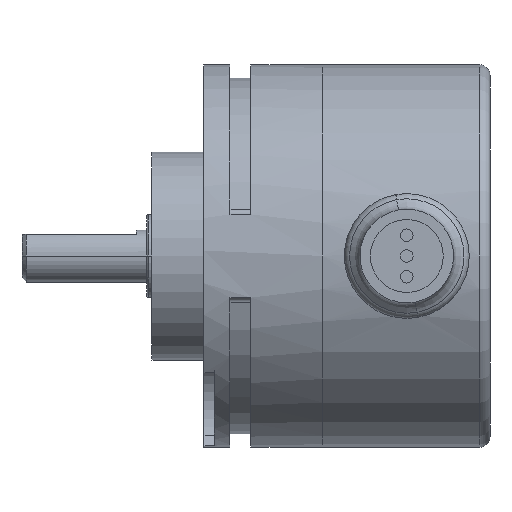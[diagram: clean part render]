
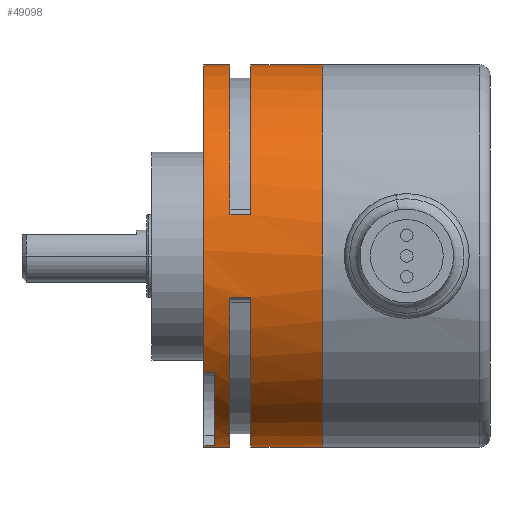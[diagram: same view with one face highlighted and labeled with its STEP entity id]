
A CAD part, front view. The second image highlights one B-rep face of the part: STEP entity #49098.
In plain terms, the highlighted cylindrical face has radius 18.4 mm (diameter 36.8 mm), a partial arc.
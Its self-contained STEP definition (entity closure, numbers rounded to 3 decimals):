
#8160 = CARTESIAN_POINT ( 'NONE',  ( -46.111, 2.669, -18.237 ) ) ;
#8545 = DIRECTION ( 'NONE',  ( 0., 0., 1. ) ) ;
#8546 = DIRECTION ( 'NONE',  ( -1., 0., 0. ) ) ;
#8547 = AXIS2_PLACEMENT_3D ( 'NONE', #8554, #8546, #8545 ) ;
#8548 = CIRCLE ( 'NONE', #8547, 18.4 ) ;
#8554 = CARTESIAN_POINT ( 'NONE',  ( -46.111, 5.115, 0. ) ) ;
#8628 = CARTESIAN_POINT ( 'NONE',  ( -44.611, -12.845, 4. ) ) ;
#8629 = DIRECTION ( 'NONE',  ( -1., 0., 0. ) ) ;
#8630 = VECTOR ( 'NONE', #8629, 1000. ) ;
#8631 = CARTESIAN_POINT ( 'NONE',  ( -42.611, -12.845, 4. ) ) ;
#8632 = LINE ( 'NONE', #8631, #8630 ) ;
#8633 = CARTESIAN_POINT ( 'NONE',  ( -42.611, -12.845, 4. ) ) ;
#8634 = DIRECTION ( 'NONE',  ( 0., 0., -1. ) ) ;
#8635 = DIRECTION ( 'NONE',  ( 1., 0., 0. ) ) ;
#8636 = CARTESIAN_POINT ( 'NONE',  ( -42.611, 5.115, 0. ) ) ;
#8637 = AXIS2_PLACEMENT_3D ( 'NONE', #8636, #8635, #8634 ) ;
#8638 = CIRCLE ( 'NONE', #8637, 18.4 ) ;
#8640 = CARTESIAN_POINT ( 'NONE',  ( -47.111, 2.669, -18.237 ) ) ;
#8641 = DIRECTION ( 'NONE',  ( 0., 0., 1. ) ) ;
#8642 = DIRECTION ( 'NONE',  ( -1., 0., 0. ) ) ;
#8643 = AXIS2_PLACEMENT_3D ( 'NONE', #8665, #8642, #8641 ) ;
#8665 = CARTESIAN_POINT ( 'NONE',  ( -47.111, 5.115, 0. ) ) ;
#8666 = CIRCLE ( 'NONE', #8643, 18.4 ) ;
#8667 = CARTESIAN_POINT ( 'NONE',  ( -47.111, -9.456, -11.237 ) ) ;
#8668 = DIRECTION ( 'NONE',  ( 0., 0., 1. ) ) ;
#8669 = DIRECTION ( 'NONE',  ( -1., 0., 0. ) ) ;
#8670 = CARTESIAN_POINT ( 'NONE',  ( -47.111, 5.115, 0. ) ) ;
#8671 = AXIS2_PLACEMENT_3D ( 'NONE', #8670, #8669, #8668 ) ;
#8672 = CIRCLE ( 'NONE', #8671, 18.4 ) ;
#8673 = CARTESIAN_POINT ( 'NONE',  ( -46.111, -9.456, -11.237 ) ) ;
#8674 = DIRECTION ( 'NONE',  ( -1., 0., 0. ) ) ;
#8675 = VECTOR ( 'NONE', #8674, 1000. ) ;
#8676 = CARTESIAN_POINT ( 'NONE',  ( -46.111, -9.456, -11.237 ) ) ;
#8677 = LINE ( 'NONE', #8676, #8675 ) ;
#8696 = DIRECTION ( 'NONE',  ( 0., 0., -1. ) ) ;
#8697 = DIRECTION ( 'NONE',  ( 1., 0., 0. ) ) ;
#8698 = CARTESIAN_POINT ( 'NONE',  ( -44.611, 5.115, 0. ) ) ;
#8699 = AXIS2_PLACEMENT_3D ( 'NONE', #8698, #8697, #8696 ) ;
#8700 = CIRCLE ( 'NONE', #8699, 18.4 ) ;
#8780 = DIRECTION ( 'NONE',  ( 0., 0., -1. ) ) ;
#8781 = DIRECTION ( 'NONE',  ( 1., 0., 0. ) ) ;
#8782 = CARTESIAN_POINT ( 'NONE',  ( -42.611, 5.115, 0. ) ) ;
#8783 = AXIS2_PLACEMENT_3D ( 'NONE', #8782, #8781, #8780 ) ;
#8784 = CIRCLE ( 'NONE', #8783, 18.4 ) ;
#8786 = CARTESIAN_POINT ( 'NONE',  ( -42.611, -12.845, -4. ) ) ;
#8787 = DIRECTION ( 'NONE',  ( -1., 0., 0. ) ) ;
#8788 = VECTOR ( 'NONE', #8787, 1000. ) ;
#8789 = CARTESIAN_POINT ( 'NONE',  ( -42.611, -12.845, -4. ) ) ;
#8790 = LINE ( 'NONE', #8789, #8788 ) ;
#8791 = CARTESIAN_POINT ( 'NONE',  ( -44.611, -12.845, -4. ) ) ;
#8792 = DIRECTION ( 'NONE',  ( 0., 0., -1. ) ) ;
#8793 = DIRECTION ( 'NONE',  ( 1., 0., 0. ) ) ;
#8794 = CARTESIAN_POINT ( 'NONE',  ( -44.611, 5.115, 0. ) ) ;
#8808 = CARTESIAN_POINT ( 'NONE',  ( -52.111, 5.115, 0. ) ) ;
#8809 = CYLINDRICAL_SURFACE ( 'NONE', #8830, 18.4 ) ;
#8822 = AXIS2_PLACEMENT_3D ( 'NONE', #8794, #8793, #8792 ) ;
#8823 = CIRCLE ( 'NONE', #8822, 18.4 ) ;
#8824 = DIRECTION ( 'NONE',  ( -1., 0., 0. ) ) ;
#8825 = VECTOR ( 'NONE', #8824, 1000. ) ;
#8826 = CARTESIAN_POINT ( 'NONE',  ( -46.111, 2.669, -18.237 ) ) ;
#8827 = LINE ( 'NONE', #8826, #8825 ) ;
#8828 = DIRECTION ( 'NONE',  ( 0., 0., 1. ) ) ;
#8829 = DIRECTION ( 'NONE',  ( -1., 0., 0. ) ) ;
#8830 = AXIS2_PLACEMENT_3D ( 'NONE', #8808, #8829, #8828 ) ;
#8865 = FACE_OUTER_BOUND ( 'NONE', #49234, .T. ) ;
#8979 = DIRECTION ( 'NONE',  ( 0., 0., 1. ) ) ;
#8980 = DIRECTION ( 'NONE',  ( -1., 0., 0. ) ) ;
#8981 = CARTESIAN_POINT ( 'NONE',  ( -35.711, 5.115, 0. ) ) ;
#8982 = AXIS2_PLACEMENT_3D ( 'NONE', #8981, #8980, #8979 ) ;
#8983 = CIRCLE ( 'NONE', #8982, 18.4 ) ;
#21793 = CARTESIAN_POINT ( 'NONE',  ( -44.611, 5.115, -18.4 ) ) ;
#28850 = CARTESIAN_POINT ( 'NONE',  ( -42.611, 5.115, -18.4 ) ) ;
#28851 = DIRECTION ( 'NONE',  ( -1., 0., 0. ) ) ;
#28852 = VECTOR ( 'NONE', #28851, 1000. ) ;
#28853 = CARTESIAN_POINT ( 'NONE',  ( -52.111, 5.115, -18.4 ) ) ;
#28854 = LINE ( 'NONE', #28853, #28852 ) ;
#28910 = CARTESIAN_POINT ( 'NONE',  ( -35.711, 5.115, -18.4 ) ) ;
#28911 = CARTESIAN_POINT ( 'NONE',  ( -35.711, 5.115, 18.4 ) ) ;
#34355 = CARTESIAN_POINT ( 'NONE',  ( -42.611, 5.115, 18.4 ) ) ;
#34382 = DIRECTION ( 'NONE',  ( -1., 0., 0. ) ) ;
#34383 = VECTOR ( 'NONE', #34382, 1000. ) ;
#34384 = CARTESIAN_POINT ( 'NONE',  ( -52.111, 5.115, -18.4 ) ) ;
#34385 = LINE ( 'NONE', #34384, #34383 ) ;
#34386 = CARTESIAN_POINT ( 'NONE',  ( -47.111, 5.115, -18.4 ) ) ;
#34457 = CARTESIAN_POINT ( 'NONE',  ( -47.111, 5.115, 18.4 ) ) ;
#34458 = CARTESIAN_POINT ( 'NONE',  ( -44.611, 5.115, 18.4 ) ) ;
#34567 = DIRECTION ( 'NONE',  ( -1., 0., 0. ) ) ;
#34568 = VECTOR ( 'NONE', #34567, 1000. ) ;
#34569 = CARTESIAN_POINT ( 'NONE',  ( -52.111, 5.115, 18.4 ) ) ;
#34570 = LINE ( 'NONE', #34569, #34568 ) ;
#34596 = DIRECTION ( 'NONE',  ( -1., 0., 0. ) ) ;
#34597 = VECTOR ( 'NONE', #34596, 1000. ) ;
#34598 = CARTESIAN_POINT ( 'NONE',  ( -52.111, 5.115, 18.4 ) ) ;
#34599 = LINE ( 'NONE', #34598, #34597 ) ;
#48567 = VERTEX_POINT ( 'NONE', #8160 ) ;
#48569 = ORIENTED_EDGE ( 'NONE', *, *, #49100, .T. ) ;
#48679 = ORIENTED_EDGE ( 'NONE', *, *, #54848, .T. ) ;
#48680 = ORIENTED_EDGE ( 'NONE', *, *, #48958, .F. ) ;
#48881 = ORIENTED_EDGE ( 'NONE', *, *, #48886, .F. ) ;
#48886 = EDGE_CURVE ( 'NONE', #48567, #48956, #8548, .T. ) ;
#48951 = ORIENTED_EDGE ( 'NONE', *, *, #48954, .F. ) ;
#48954 = EDGE_CURVE ( 'NONE', #48956, #48959, #8677, .T. ) ;
#48956 = VERTEX_POINT ( 'NONE', #8673 ) ;
#48958 = EDGE_CURVE ( 'NONE', #48959, #54829, #8672, .T. ) ;
#48959 = VERTEX_POINT ( 'NONE', #8667 ) ;
#48964 = EDGE_CURVE ( 'NONE', #54815, #48967, #8666, .T. ) ;
#48967 = VERTEX_POINT ( 'NONE', #8640 ) ;
#48973 = ORIENTED_EDGE ( 'NONE', *, *, #54861, .T. ) ;
#48976 = ORIENTED_EDGE ( 'NONE', *, *, #48978, .T. ) ;
#48978 = EDGE_CURVE ( 'NONE', #54801, #48981, #8638, .T. ) ;
#48981 = VERTEX_POINT ( 'NONE', #8633 ) ;
#48983 = ORIENTED_EDGE ( 'NONE', *, *, #48985, .T. ) ;
#48985 = EDGE_CURVE ( 'NONE', #48981, #48987, #8632, .T. ) ;
#48987 = VERTEX_POINT ( 'NONE', #8628 ) ;
#48989 = ORIENTED_EDGE ( 'NONE', *, *, #48991, .F. ) ;
#48991 = EDGE_CURVE ( 'NONE', #54828, #48987, #8700, .T. ) ;
#49098 = ADVANCED_FACE ( 'NONE', ( #8865 ), #8809, .T. ) ;
#49100 = EDGE_CURVE ( 'NONE', #48567, #48967, #8827, .T. ) ;
#49101 = ORIENTED_EDGE ( 'NONE', *, *, #48964, .F. ) ;
#49103 = ORIENTED_EDGE ( 'NONE', *, *, #54816, .F. ) ;
#49105 = ORIENTED_EDGE ( 'NONE', *, *, #49108, .F. ) ;
#49108 = EDGE_CURVE ( 'NONE', #49109, #51880, #8823, .T. ) ;
#49109 = VERTEX_POINT ( 'NONE', #8791 ) ;
#49110 = ORIENTED_EDGE ( 'NONE', *, *, #49111, .F. ) ;
#49111 = EDGE_CURVE ( 'NONE', #49112, #49109, #8790, .T. ) ;
#49112 = VERTEX_POINT ( 'NONE', #8786 ) ;
#49114 = ORIENTED_EDGE ( 'NONE', *, *, #49116, .T. ) ;
#49116 = EDGE_CURVE ( 'NONE', #49112, #51845, #8784, .T. ) ;
#49234 = EDGE_LOOP ( 'NONE', ( #49235, #49238, #48973, #48976, #48983, #48989, #48679, #48680, #48951, #48881, #48569, #49101, #49103, #49105, #49110, #49114 ) ) ;
#49235 = ORIENTED_EDGE ( 'NONE', *, *, #51842, .F. ) ;
#49238 = ORIENTED_EDGE ( 'NONE', *, *, #49240, .T. ) ;
#49240 = EDGE_CURVE ( 'NONE', #51838, #51837, #8983, .T. ) ;
#51837 = VERTEX_POINT ( 'NONE', #28911 ) ;
#51838 = VERTEX_POINT ( 'NONE', #28910 ) ;
#51842 = EDGE_CURVE ( 'NONE', #51838, #51845, #28854, .T. ) ;
#51845 = VERTEX_POINT ( 'NONE', #28850 ) ;
#51880 = VERTEX_POINT ( 'NONE', #21793 ) ;
#54801 = VERTEX_POINT ( 'NONE', #34355 ) ;
#54815 = VERTEX_POINT ( 'NONE', #34386 ) ;
#54816 = EDGE_CURVE ( 'NONE', #51880, #54815, #34385, .T. ) ;
#54828 = VERTEX_POINT ( 'NONE', #34458 ) ;
#54829 = VERTEX_POINT ( 'NONE', #34457 ) ;
#54848 = EDGE_CURVE ( 'NONE', #54828, #54829, #34599, .T. ) ;
#54861 = EDGE_CURVE ( 'NONE', #51837, #54801, #34570, .T. ) ;
